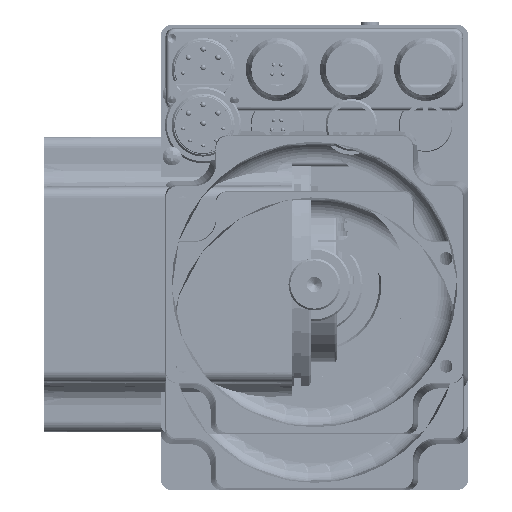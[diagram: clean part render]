
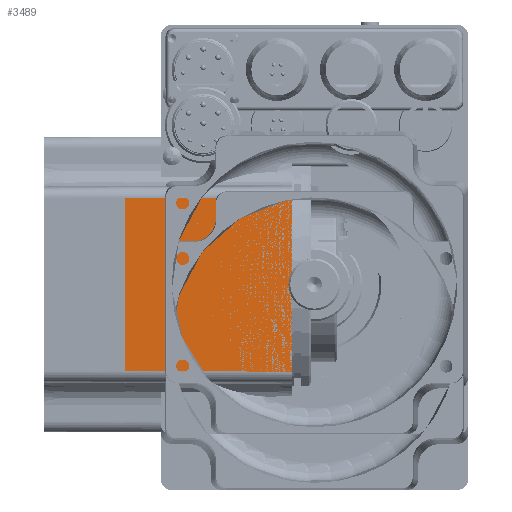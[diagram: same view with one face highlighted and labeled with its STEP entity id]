
A CAD part, front view. The second image highlights one B-rep face of the part: STEP entity #3489.
In plain terms, the highlighted planar face has unit normal (-0.003, -1, 0).
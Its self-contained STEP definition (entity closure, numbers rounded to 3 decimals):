
#3489 = ADVANCED_FACE( '', ( #8304 ), #8305, .T. );
#8304 = FACE_OUTER_BOUND( '', #19449, .T. );
#8305 = PLANE( '', #19450 );
#19449 = EDGE_LOOP( '', ( #33988, #33989, #33990, #33991 ) );
#19450 = AXIS2_PLACEMENT_3D( '', #33992, #33993, #33994 );
#33988 = ORIENTED_EDGE( '', *, *, #44657, .T. );
#33989 = ORIENTED_EDGE( '', *, *, #44514, .T. );
#33990 = ORIENTED_EDGE( '', *, *, #44658, .T. );
#33991 = ORIENTED_EDGE( '', *, *, #43267, .T. );
#33992 = CARTESIAN_POINT( '', ( -5., -40., 0. ) );
#33993 = DIRECTION( '', ( -0.003, -1., 0. ) );
#33994 = DIRECTION( '', ( 1., -0.003, 0. ) );
#43267 = EDGE_CURVE( '', #49985, #49983, #49986, .T. );
#44514 = EDGE_CURVE( '', #51896, #51894, #51897, .T. );
#44657 = EDGE_CURVE( '', #49983, #51896, #52104, .T. );
#44658 = EDGE_CURVE( '', #51894, #49985, #52105, .T. );
#49983 = VERTEX_POINT( '', #68617 );
#49985 = VERTEX_POINT( '', #68619 );
#49986 = LINE( '', #68620, #68621 );
#51894 = VERTEX_POINT( '', #71981 );
#51896 = VERTEX_POINT( '', #71983 );
#51897 = LINE( '', #71984, #71985 );
#52104 = LINE( '', #72262, #72263 );
#52105 = LINE( '', #72264, #72265 );
#68617 = CARTESIAN_POINT( '', ( -51., -39.866, -23.366 ) );
#68619 = CARTESIAN_POINT( '', ( -51., -39.866, 23.366 ) );
#68620 = CARTESIAN_POINT( '', ( -51., -39.866, 0. ) );
#68621 = VECTOR( '', #80066, 1000. );
#71981 = CARTESIAN_POINT( '', ( -6., -39.997, 23.497 ) );
#71983 = CARTESIAN_POINT( '', ( -6., -39.997, -23.497 ) );
#71984 = CARTESIAN_POINT( '', ( -6., -39.997, 0. ) );
#71985 = VECTOR( '', #81830, 1000. );
#72262 = CARTESIAN_POINT( '', ( -4.991, -40., -23.5 ) );
#72263 = VECTOR( '', #82034, 1000. );
#72264 = CARTESIAN_POINT( '', ( -98.991, -39.727, 23.227 ) );
#72265 = VECTOR( '', #82035, 1000. );
#80066 = DIRECTION( '', ( 0., 0., -1. ) );
#81830 = DIRECTION( '', ( 0., 0., 1. ) );
#82034 = DIRECTION( '', ( 1., -0.003, -0.003 ) );
#82035 = DIRECTION( '', ( -1., 0.003, -0.003 ) );
